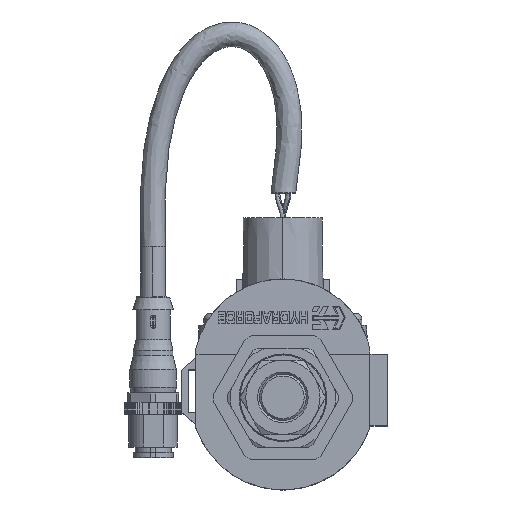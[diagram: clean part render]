
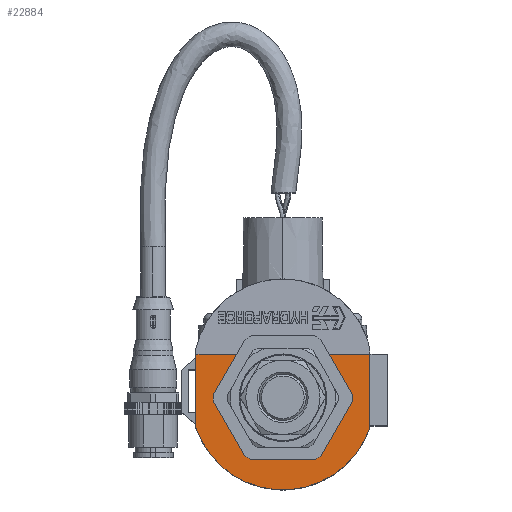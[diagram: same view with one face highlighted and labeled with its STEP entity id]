
A CAD part, top view. The second image highlights one B-rep face of the part: STEP entity #22884.
In plain terms, the highlighted planar face has unit normal (0, 0, 1).
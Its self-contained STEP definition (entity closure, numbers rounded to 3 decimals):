
#5101=DIRECTION('',(-1.,0.,0.));
#5102=VECTOR('',#5101,11.062);
#5103=CARTESIAN_POINT('',(-11.214,11.252,24.384));
#5104=LINE('',#5103,#5102);
#7396=CARTESIAN_POINT('',(0.,0.,24.384));
#7397=DIRECTION('',(0.,0.,1.));
#7398=DIRECTION('',(-0.803,0.596,0.));
#7399=AXIS2_PLACEMENT_3D('',#7396,#7397,#7398);
#7401=CARTESIAN_POINT('',(0.,0.,24.384));
#7402=DIRECTION('',(0.,0.,1.));
#7403=DIRECTION('',(-1.,0.,0.));
#7404=AXIS2_PLACEMENT_3D('',#7401,#7402,#7403);
#7406=CARTESIAN_POINT('',(0.,0.,24.384));
#7407=DIRECTION('',(0.,0.,1.));
#7408=DIRECTION('',(1.,0.,0.));
#7409=AXIS2_PLACEMENT_3D('',#7406,#7407,#7408);
#7411=DIRECTION('',(0.,1.,0.));
#7412=VECTOR('',#7411,2.921);
#7413=CARTESIAN_POINT('',(11.214,8.331,24.384));
#7414=LINE('',#7413,#7412);
#7415=DIRECTION('',(1.,0.,0.));
#7416=VECTOR('',#7415,11.062);
#7417=CARTESIAN_POINT('',(11.214,11.252,24.384));
#7418=LINE('',#7417,#7416);
#7419=DIRECTION('',(0.,-1.,0.));
#7420=VECTOR('',#7419,18.923);
#7421=CARTESIAN_POINT('',(22.276,11.252,24.384));
#7422=LINE('',#7421,#7420);
#7423=CARTESIAN_POINT('',(0.,0.,24.384));
#7424=DIRECTION('',(0.,0.,-1.));
#7425=DIRECTION('',(0.946,-0.326,0.));
#7426=AXIS2_PLACEMENT_3D('',#7423,#7424,#7425);
#7428=DIRECTION('',(0.,1.,0.));
#7429=VECTOR('',#7428,18.923);
#7430=CARTESIAN_POINT('',(-22.276,-7.671,24.384));
#7431=LINE('',#7430,#7429);
#7432=DIRECTION('',(0.,-1.,0.));
#7433=VECTOR('',#7432,2.921);
#7434=CARTESIAN_POINT('',(-11.214,11.252,24.384));
#7435=LINE('',#7434,#7433);
#18824=CARTESIAN_POINT('',(11.214,11.252,24.384));
#18825=CARTESIAN_POINT('',(-11.214,11.252,24.384));
#18826=VERTEX_POINT('',#18824);
#18827=VERTEX_POINT('',#18825);
#18828=CARTESIAN_POINT('',(-22.276,11.252,24.384));
#18829=VERTEX_POINT('',#18828);
#18837=CARTESIAN_POINT('',(22.276,11.252,24.384));
#18838=VERTEX_POINT('',#18837);
#19108=CARTESIAN_POINT('',(-11.214,8.331,24.384));
#19110=VERTEX_POINT('',#19108);
#19117=CARTESIAN_POINT('',(11.214,8.331,24.384));
#19118=VERTEX_POINT('',#19117);
#19306=CARTESIAN_POINT('',(-13.97,0.,24.384));
#19308=VERTEX_POINT('',#19306);
#19347=CARTESIAN_POINT('',(13.97,0.,24.384));
#19348=VERTEX_POINT('',#19347);
#19459=CARTESIAN_POINT('',(22.276,-7.671,24.384));
#19460=VERTEX_POINT('',#19459);
#19461=CARTESIAN_POINT('',(-22.276,-7.671,24.384));
#19462=VERTEX_POINT('',#19461);
#22863=CARTESIAN_POINT('',(0.,11.252,24.384));
#22864=DIRECTION('',(0.,0.,-1.));
#22865=DIRECTION('',(0.,1.,0.));
#22866=AXIS2_PLACEMENT_3D('',#22863,#22864,#22865);
#22867=PLANE('',#22866);
#22868=ORIENTED_EDGE('',*,*,#22748,.T.);
#22869=ORIENTED_EDGE('',*,*,#22571,.T.);
#22870=ORIENTED_EDGE('',*,*,#22692,.T.);
#22872=ORIENTED_EDGE('',*,*,#22871,.T.);
#22873=ORIENTED_EDGE('',*,*,#21661,.T.);
#22875=ORIENTED_EDGE('',*,*,#22874,.T.);
#22877=ORIENTED_EDGE('',*,*,#22876,.T.);
#22879=ORIENTED_EDGE('',*,*,#22878,.T.);
#22880=ORIENTED_EDGE('',*,*,#21649,.F.);
#22881=ORIENTED_EDGE('',*,*,#22023,.T.);
#22882=EDGE_LOOP('',(#22868,#22869,#22870,#22872,#22873,#22875,#22877,#22879,
#22880,#22881));
#22883=FACE_OUTER_BOUND('',#22882,.F.);
#22884=ADVANCED_FACE('',(#22883),#22867,.F.);
#7400=CIRCLE('',#7399,13.97);
#7405=CIRCLE('',#7404,13.97);
#7410=CIRCLE('',#7409,13.97);
#7427=CIRCLE('',#7426,23.56);
#21649=EDGE_CURVE('',#18827,#18829,#5104,.T.);
#21661=EDGE_CURVE('',#18826,#18838,#7418,.T.);
#22023=EDGE_CURVE('',#18827,#19110,#7435,.T.);
#22571=EDGE_CURVE('',#19308,#19348,#7405,.T.);
#22692=EDGE_CURVE('',#19348,#19118,#7410,.T.);
#22748=EDGE_CURVE('',#19110,#19308,#7400,.T.);
#22871=EDGE_CURVE('',#19118,#18826,#7414,.T.);
#22874=EDGE_CURVE('',#18838,#19460,#7422,.T.);
#22876=EDGE_CURVE('',#19460,#19462,#7427,.T.);
#22878=EDGE_CURVE('',#19462,#18829,#7431,.T.);
